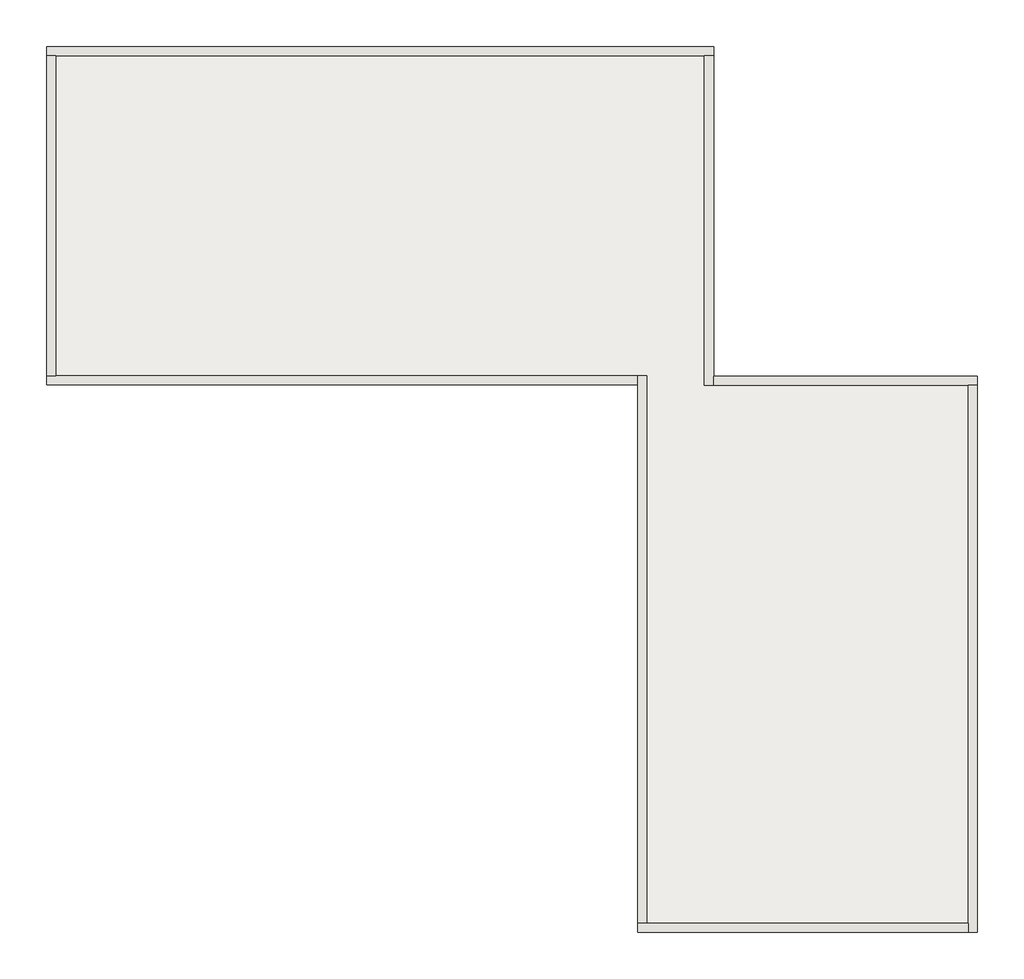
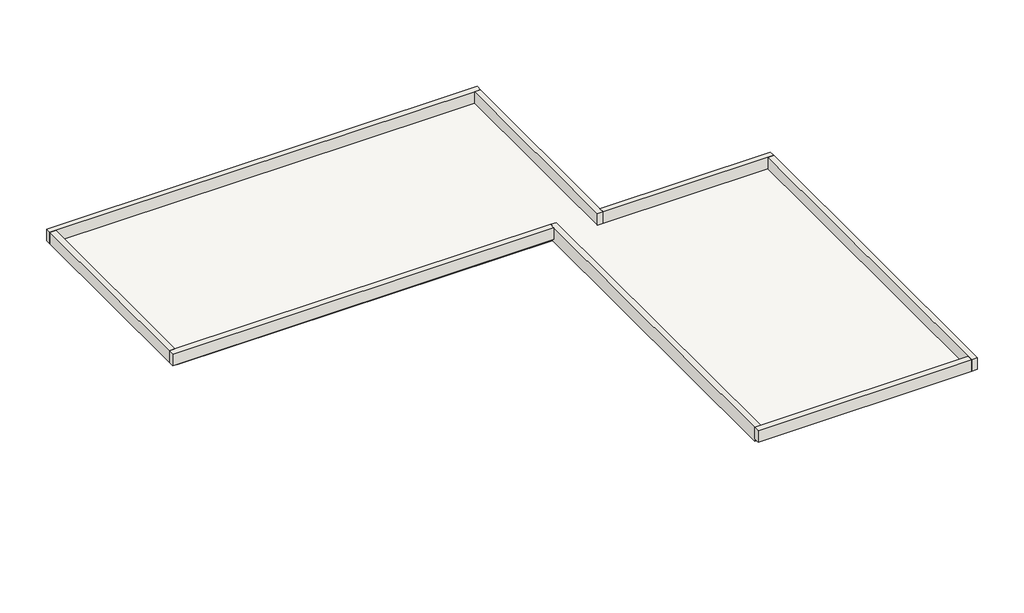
# One storey: 8 walls, 1 roof.
"""IFC4 building model written with IfcOpenShell, lengths in millimetres."""

from ifc_helpers import new_model, si_unit, frame, origin, place, context, project, spatial, polyline, outline, extrude, faceted_brep, element, save

model = new_model("IFC4")

# Units and contexts
model_context = context("Model", 3, world=origin())
ifc_project = project(units=[si_unit("LENGTHUNIT", "METRE", prefix="MILLI")], contexts=[model_context])

# Site, building, storey
site = spatial("IfcSite", under=ifc_project)
building = spatial("IfcBuilding", under=site)
storey = spatial("IfcBuildingStorey", under=building, Name="标高 3", Elevation=7200.0)

# Roof
placement = place(None, origin())
element("IfcRoof", 1, ObjectType="屋顶-120mm", at=placement, inside=storey, context=model_context, shape_type="Brep", body=[
    faceted_brep([(-5743.2622628, 25624.1658649, 7080.0), (-3058.2622628, 25624.1658649, 7080.0), (-2818.2622628, 25624.1658649, 7080.0), (616.7377372, 25624.1658649, 7080.0), (856.7377372, 25624.1658649, 7080.0), (4216.7377372, 25624.1658649, 7080.0), (4456.7377372, 25624.1658649, 7080.0), (7816.7377372, 25624.1658649, 7080.0), (8056.7377372, 25624.1658649, 7080.0), (11416.7377372, 25624.1658649, 7080.0), (11416.7377372, 18964.1658649, 7080.0), (11416.7377372, 18724.1658649, 7080.0), (11416.7377372, 16944.1658649, 7080.0), (11616.7377372, 16944.1658649, 7080.0), (18436.7377372, 16944.1658649, 7080.0), (18436.7377372, 2644.1658649, 7080.0), (9766.7377372, 2644.1658649, 7080.0), (9766.7377372, 17044.1658649, 7080.0), (-5743.2622628, 17044.1658649, 7080.0), (11416.7377372, 25624.1658649, 7200.0), (-5743.2622628, 25624.1658649, 7200.0), (-5743.2622628, 17044.1658649, 7200.0), (9766.7377372, 17044.1658649, 7200.0), (9766.7377372, 2644.1658649, 7200.0), (18436.7377372, 2644.1658649, 7200.0), (18436.7377372, 16944.1658649, 7200.0), (11416.7377372, 16944.1658649, 7200.0)], [[[0, 1, 2, 3, 4, 5, 6, 7, 8, 9, 10, 11, 12, 13, 14, 15, 16, 17, 18]], [[19, 20, 21, 22, 23, 24, 25, 26]], [[20, 19, 9, 8, 7, 6, 5, 4, 3, 2, 1, 0]], [[21, 20, 0, 18]], [[22, 21, 18, 17]], [[24, 23, 16, 15]], [[25, 24, 15, 14]], [[26, 25, 14, 13, 12]], [[19, 26, 12, 11, 10, 9]], [[23, 22, 17, 16]]]),
])

# Walls
element("IfcWall", 2, ObjectType="240mm厚墙", at=placement, inside=storey, context=model_context, shape_type="Brep", body=[
    faceted_brep([(-5983.2622628, 25624.1658649, 7200.0), (-5743.2622628, 25624.1658649, 7200.0), (11416.7377372, 25624.1658649, 7200.0), (11656.7377372, 25624.1658649, 7200.0), (11656.7377372, 25624.1658649, 7700.0), (11416.7377372, 25624.1658649, 7700.0), (-5743.2622628, 25624.1658649, 7700.0), (-5983.2622628, 25624.1658649, 7700.0), (-5983.2622628, 25864.1658649, 7200.0), (-5983.2622628, 25864.1658649, 7700.0), (11656.7377372, 25864.1658649, 7700.0), (11656.7377372, 25864.1658649, 7200.0)], [[[0, 1, 2, 3, 4, 5, 6, 7]], [[8, 9, 10, 11]], [[3, 2, 1, 0, 8, 11]], [[7, 6, 5, 4, 10, 9]], [[4, 3, 11, 10]], [[0, 7, 9, 8]]]),
])
element("IfcWall", 3, ObjectType="240mm厚墙", at=placement, inside=storey, context=model_context, shape_type="Brep", body=[
    faceted_brep([(11416.7377372, 25624.1658649, 7200.0), (11416.7377372, 16904.1658649, 7200.0), (11416.7377372, 16904.1658649, 7700.0), (11416.7377372, 25624.1658649, 7700.0), (11656.7377372, 25624.1658649, 7200.0), (11656.7377372, 25624.1658649, 7700.0), (11656.7377372, 17144.1658649, 7700.0), (11656.7377372, 16904.1658649, 7700.0), (11656.7377372, 16904.1658649, 7200.0), (11656.7377372, 17144.1658649, 7200.0)], [[[0, 1, 2, 3]], [[4, 5, 6, 7, 8, 9]], [[1, 0, 4, 9, 8]], [[3, 2, 7, 6, 5]], [[0, 3, 5, 4]], [[2, 1, 8, 7]]]),
])
element("IfcWall", 4, ObjectType="240mm厚墙", at=placement, inside=storey, context=model_context, shape_type="Brep", body=[
    faceted_brep([(11656.7377372, 16904.1658649, 7200.0), (18396.7377372, 16904.1658649, 7200.0), (18636.7377372, 16904.1658649, 7200.0), (18636.7377372, 16904.1658649, 7700.0), (18396.7377372, 16904.1658649, 7700.0), (11656.7377372, 16904.1658649, 7700.0), (11656.7377372, 17144.1658649, 7200.0), (11656.7377372, 17144.1658649, 7700.0), (18636.7377372, 17144.1658649, 7700.0), (18636.7377372, 17144.1658649, 7200.0)], [[[0, 1, 2, 3, 4, 5]], [[6, 7, 8, 9]], [[2, 1, 0, 6, 9]], [[5, 4, 3, 8, 7]], [[3, 2, 9, 8]], [[0, 5, 7, 6]]]),
])
element("IfcWall", 5, ObjectType="240mm厚墙", at=placement, inside=storey, context=model_context, shape_type="Brep", body=[
    faceted_brep([(18396.7377372, 16904.1658649, 7200.0), (18396.7377372, 2684.1658649, 7200.0), (18396.7377372, 2444.1658649, 7200.0), (18396.7377372, 2444.1658649, 7700.0), (18396.7377372, 2684.1658649, 7700.0), (18396.7377372, 16904.1658649, 7700.0), (18636.7377372, 16904.1658649, 7200.0), (18636.7377372, 16904.1658649, 7700.0), (18636.7377372, 2444.1658649, 7700.0), (18636.7377372, 2444.1658649, 7200.0)], [[[0, 1, 2, 3, 4, 5]], [[6, 7, 8, 9]], [[2, 1, 0, 6, 9]], [[5, 4, 3, 8, 7]], [[0, 5, 7, 6]], [[3, 2, 9, 8]]]),
])
element("IfcWall", 6, ObjectType="240mm厚墙", at=placement, inside=storey, context=model_context, shape_type="Brep", body=[
    faceted_brep([(18396.7377372, 2684.1658649, 7200.0), (9646.7377372, 2684.1658649, 7200.0), (9646.7377372, 2684.1658649, 7700.0), (9886.7377372, 2684.1658649, 7700.0), (18396.7377372, 2684.1658649, 7700.0), (18396.7377372, 2444.1658649, 7200.0), (18396.7377372, 2444.1658649, 7700.0), (9646.7377372, 2444.1658649, 7700.0), (9646.7377372, 2444.1658649, 7200.0)], [[[0, 1, 2, 3, 4]], [[5, 6, 7, 8]], [[1, 0, 5, 8]], [[4, 3, 2, 7, 6]], [[0, 4, 6, 5]], [[2, 1, 8, 7]]]),
])
element("IfcWall", 7, ObjectType="240mm厚墙", at=placement, inside=storey, context=model_context, shape_type="Brep", body=[
    faceted_brep([(9886.7377372, 2684.1658649, 7080.0), (9886.7377372, 17164.1658649, 7080.0), (9886.7377372, 17164.1658649, 7700.0), (9886.7377372, 2684.1658649, 7700.0), (9646.7377372, 2684.1658649, 7080.0), (9646.7377372, 2684.1658649, 7200.0), (9646.7377372, 2684.1658649, 7700.0), (9646.7377372, 16924.1658649, 7700.0), (9646.7377372, 17164.1658649, 7700.0), (9646.7377372, 17164.1658649, 7200.0), (9646.7377372, 17164.1658649, 7080.0)], [[[0, 1, 2, 3]], [[4, 5, 6, 7, 8, 9, 10]], [[1, 0, 4, 10]], [[3, 2, 8, 7, 6]], [[0, 3, 6, 5, 4]], [[2, 1, 10, 9, 8]]]),
])
element("IfcWall", 8, ObjectType="240mm厚墙", at=placement, inside=storey, context=model_context, shape_type="Brep", body=[
    faceted_brep([(9646.7377372, 17164.1658649, 7200.0), (-5743.2622628, 17164.1658649, 7200.0), (-5983.2622628, 17164.1658649, 7200.0), (-5983.2622628, 17164.1658649, 7700.0), (-5743.2622628, 17164.1658649, 7700.0), (9646.7377372, 17164.1658649, 7700.0), (9646.7377372, 16924.1658649, 7200.0), (9646.7377372, 16924.1658649, 7700.0), (-5983.2622628, 16924.1658649, 7700.0), (-5983.2622628, 16924.1658649, 7200.0)], [[[0, 1, 2, 3, 4, 5]], [[6, 7, 8, 9]], [[2, 1, 0, 6, 9]], [[5, 4, 3, 8, 7]], [[0, 5, 7, 6]], [[3, 2, 9, 8]]]),
])
element("IfcWall", 9, ObjectType="240mm厚墙", at=placement, inside=storey, context=model_context, shape_type="SweptSolid", body=[
    extrude(outline(polyline([(-5743.2622628, 25624.1658649), (-5743.2622628, 17164.1658649), (-5983.2622628, 17164.1658649), (-5983.2622628, 25624.1658649), (-5743.2622628, 25624.1658649)])), frame((0.0, 0.0, 7200.0), z_axis=(0.0, 0.0, 1.0), x_axis=(1.0, 0.0, 0.0)), (0.0, 0.0, 1.0), 500.0),
])

save(model, "model.ifc")
